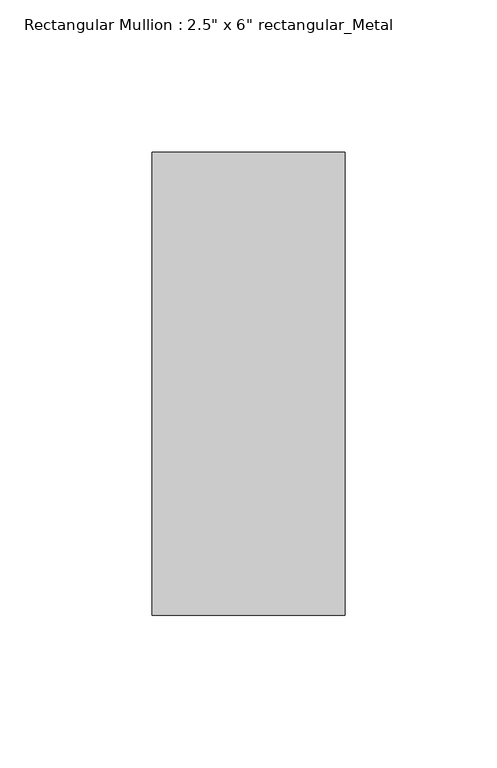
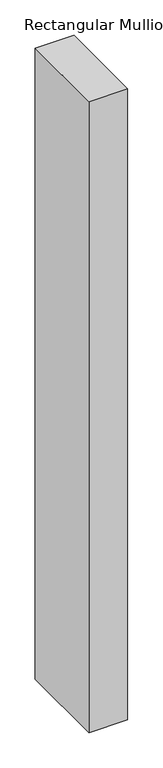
"""IFC4 building model written with IfcOpenShell, lengths in millimetres: member geometry."""

from ifc_helpers import new_model, si_unit, frame, origin, place, context, project, spatial, polyline, outline, extrude, source, transform, mapped, element, save


def member_d1f03ce6(model_context):
    return source(origin(), model_context, "Body", "SweptSolid", [
        extrude(outline(polyline([(0.0, 76.2), (0.0, -76.2), (-63.5, -76.2), (-63.5, 76.2), (0.0, 76.2)])), frame((0.0, 0.0, -1092.2), z_axis=(0.0, 0.0, 1.0), x_axis=(1.0, 0.0, 0.0)), (0.0, 0.0, 1.0), 1092.2),
    ])


if __name__ == "__main__":
    model = new_model("IFC4")
    model_context = context("Model", 3, world=origin())
    ifc_project = project(units=[si_unit("LENGTHUNIT", "METRE", prefix="MILLI")], contexts=[model_context])
    site = spatial("IfcSite", under=ifc_project)
    building = spatial("IfcBuilding", under=site)
    placement = place(None, origin())
    member_shape = member_d1f03ce6(model_context)
    element("IfcMember", 1, ObjectType="Rectangular Mullion : 2.5\" x 6\" rectangular_Metal", at=placement, inside=building, context=model_context, shape_type="MappedRepresentation", body=[
        mapped(member_shape, transform((0.0, 0.0, 0.0), x_axis=(1.0, 0.0, 0.0), y_axis=(0.0, 1.0, 0.0), z_axis=(0.0, 0.0, 1.0))),
    ])
    save(model, "model.ifc")
